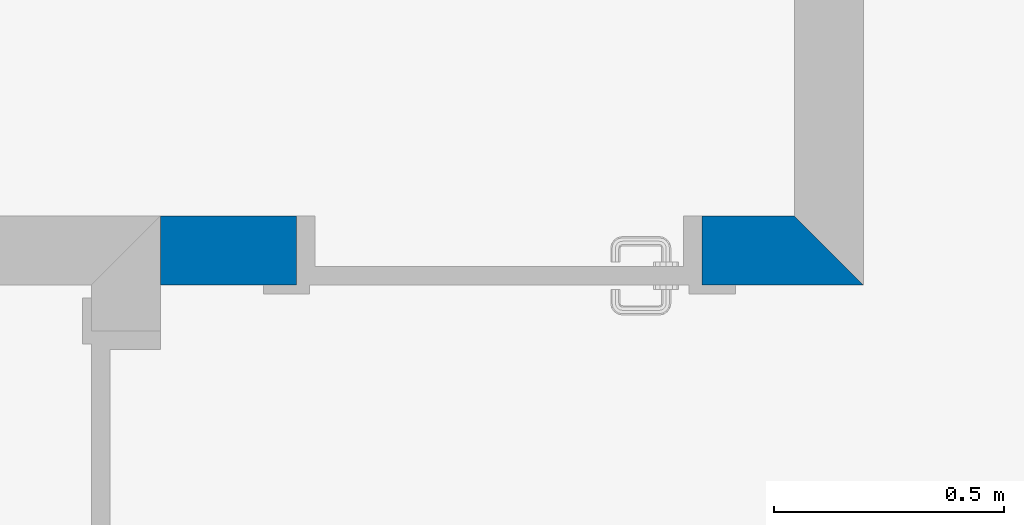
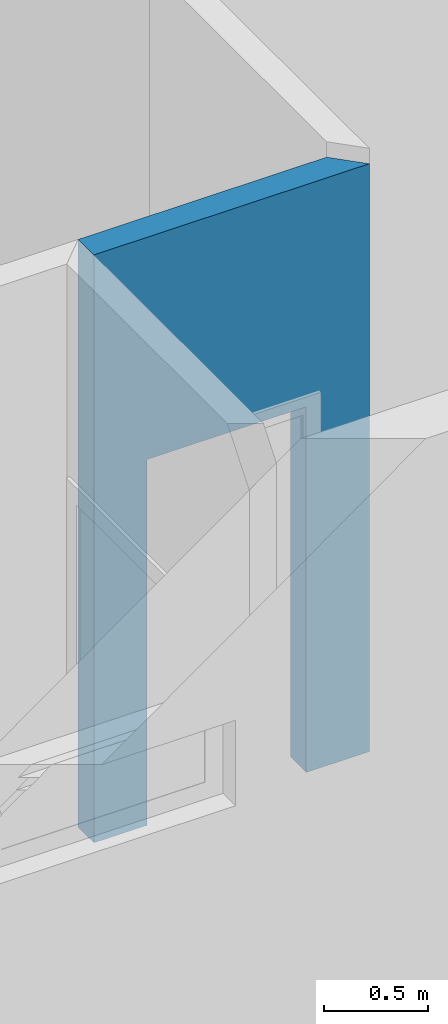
# One storey, part 4 of 26: 1 wall, 1 opening.
"""IFC2X3 building model written with IfcOpenShell, lengths in millimetres."""

import ifcopenshell
import ifcopenshell.guid

model = None  # the IFC model being written
_history = None  # IfcOwnerHistory: only IFC2X3 demands one
_inside = {}  # id of a spatial element -> (the spatial element, [elements in it])
_under = {}  # id of a project, library or spatial element -> (it, [spatial elements below it])
_declared = {}  # id of a project -> (the project, [libraries it declares])
_typed = {}  # id of a type object -> (the type object, [elements of that type])
_made_of = {}  # id of a material, layer set ... -> (it, [elements and type objects made of it])


def new_model(schema):
    """Start an empty IFC model of exactly this schema.

    Asked for "IFC4X3", IfcOpenShell would pick the latest addendum, in which some entities
    have other attributes; the version numbers below select the first issue.
    IFC2X3 requires an IfcOwnerHistory on every rooted entity: one is made here for all.
    """
    global model, _history
    if schema == "IFC4X3":
        model = ifcopenshell.file(schema_version=(4, 3, 0, 0))
    else:
        model = ifcopenshell.file(schema=schema)
    _inside.clear()
    _under.clear()
    _declared.clear()
    _typed.clear()
    _made_of.clear()
    _history = None
    if model.schema == "IFC2X3":
        org = make("IfcOrganization", Name="unknown")
        user = make(
            "IfcPersonAndOrganization",
            ThePerson=make("IfcPerson", FamilyName="unknown"),
            TheOrganization=org,
        )
        app = make(
            "IfcApplication",
            ApplicationDeveloper=org,
            Version="unknown",
            ApplicationFullName="unknown",
            ApplicationIdentifier="unknown",
        )
        _history = make(
            "IfcOwnerHistory",
            OwningUser=user,
            OwningApplication=app,
            ChangeAction="ADDED",
            CreationDate=0,
        )
    return model


def make(cls, **values):
    """One entity of the class cls with the attributes given. An attribute that is None is left unset."""
    return model.create_entity(
        cls, **{name: value for name, value in values.items() if value is not None}
    )


def entity(cls, *values):
    """Any entity or typed value of the class cls, its attributes in the order of the schema. None: left unset."""
    e = model.create_entity(cls)
    for i, value in enumerate(values):
        if value is not None:
            e[i] = value
    return e


def rooted(cls, **values):
    """An entity with a GlobalId (a new one), such as an element, a storey or a relation."""
    return make(cls, GlobalId=ifcopenshell.guid.new(), OwnerHistory=_history, **values)


def si_unit(unit_type, name, prefix=None):
    """IfcSIUnit, for example si_unit("LENGTHUNIT", "METRE", prefix="MILLI")."""
    return make("IfcSIUnit", UnitType=unit_type, Prefix=prefix, Name=name)


def converted_unit(unit_type, name, factor, base, dimensions=None, offset=None):
    """IfcConversionBasedUnit, such as the inch: factor (a typed value) times the base unit."""
    return make(
        "IfcConversionBasedUnit"
        if offset is None
        else "IfcConversionBasedUnitWithOffset",
        ConversionOffset=offset,
        Dimensions=None
        if dimensions is None
        else entity("IfcDimensionalExponents", *dimensions),
        UnitType=unit_type,
        Name=name,
        ConversionFactor=make(
            "IfcMeasureWithUnit", ValueComponent=factor, UnitComponent=base
        ),
    )


def money_unit(currency):
    """IfcMonetaryUnit."""
    return make("IfcMonetaryUnit", Currency=currency)


def assignment(units):
    """IfcUnitAssignment: the units of a project."""
    return None if units is None else make("IfcUnitAssignment", Units=units)


def point(xyz):
    """IfcCartesianPoint."""
    return None if xyz is None else make("IfcCartesianPoint", Coordinates=xyz)


def direction(xyz):
    """IfcDirection."""
    return None if xyz is None else make("IfcDirection", DirectionRatios=xyz)


def frame(location, z_axis=None, x_axis=None):
    """IfcAxis2Placement3D, a coordinate frame: its origin and axes. An axis left out is left unset."""
    return make(
        "IfcAxis2Placement3D",
        Location=point(location),
        Axis=direction(z_axis),
        RefDirection=direction(x_axis),
    )


def frame_2d(location, x_axis=None):
    """IfcAxis2Placement2D, a coordinate frame in the plane: its origin and x axis."""
    return make(
        "IfcAxis2Placement2D", Location=point(location), RefDirection=direction(x_axis)
    )


def origin_with_axes():
    """The frame at (0, 0, 0) with the z axis (0, 0, 1) and the x axis (1, 0, 0) written out."""
    return frame((0.0, 0.0, 0.0), z_axis=(0.0, 0.0, 1.0), x_axis=(1.0, 0.0, 0.0))


def origin_2d_with_axis():
    """The frame at (0, 0) in the plane with the x axis (1, 0) written out."""
    return frame_2d((0.0, 0.0), x_axis=(1.0, 0.0))


def place(relative_to, where):
    """IfcLocalPlacement: puts the frame where relative to a parent placement (None: the world)."""
    return make(
        "IfcLocalPlacement", PlacementRelTo=relative_to, RelativePlacement=where
    )


def context(
    kind, dimensions, precision=None, world=None, true_north=None, identifier=None
):
    """IfcGeometricRepresentationContext, for example the 3D "Model" context."""
    return make(
        "IfcGeometricRepresentationContext",
        ContextIdentifier=identifier,
        ContextType=kind,
        CoordinateSpaceDimension=dimensions,
        Precision=precision,
        WorldCoordinateSystem=world,
        TrueNorth=true_north,
    )


def subcontext(parent, identifier, kind, view, scale=None):
    """IfcGeometricRepresentationSubContext, for example "Body" below "Model"."""
    return make(
        "IfcGeometricRepresentationSubContext",
        ContextIdentifier=identifier,
        ContextType=kind,
        ParentContext=parent,
        TargetScale=scale,
        TargetView=view,
    )


def project(units=None, contexts=None):
    """IfcProject with its units and contexts."""
    return rooted(
        "IfcProject",
        Name="project",
        RepresentationContexts=contexts,
        UnitsInContext=assignment(units),
    )


def spatial(cls, under=None, at=None, **own):
    """A site, building, storey or space (cls), placed at a placement, below another one or the project."""
    s = rooted(cls, ObjectPlacement=at, **own)
    if under is not None:
        _under.setdefault(under.id(), (under, []))[1].append(s)
    return s


def polyline(points):
    """IfcPolyline through the points."""
    return make("IfcPolyline", Points=[point(p) for p in points])


def profile(cls, at=None, kind="AREA", **sizes):
    """A parametric profile (cls). Its sizes go by their IFC names, for example OverallWidth=200.0."""
    return make(cls, ProfileType=kind, Position=at, **sizes)


def rectangle(**sizes):
    """IfcRectangleProfileDef."""
    return profile("IfcRectangleProfileDef", **sizes)


def outline(outer, holes=None, kind="AREA"):
    """IfcArbitraryClosedProfileDef: a profile drawn as a closed curve; with holes, ...WithVoids."""
    if holes is None:
        return make("IfcArbitraryClosedProfileDef", ProfileType=kind, OuterCurve=outer)
    return make(
        "IfcArbitraryProfileDefWithVoids",
        ProfileType=kind,
        OuterCurve=outer,
        InnerCurves=holes,
    )


def extrude(swept, where, along, depth):
    """IfcExtrudedAreaSolid: the profile swept, set in the frame where, extruded along a direction by depth."""
    return make(
        "IfcExtrudedAreaSolid",
        SweptArea=swept,
        Position=where,
        ExtrudedDirection=direction(along),
        Depth=depth,
    )


def shape(context_of_items, identifier, shape_type, items):
    """IfcShapeRepresentation: the items that make up one representation, for example the "Body"."""
    return make(
        "IfcShapeRepresentation",
        ContextOfItems=context_of_items,
        RepresentationIdentifier=identifier,
        RepresentationType=shape_type,
        Items=items,
    )


def material(Name=None, Category=None):
    """IfcMaterial."""
    return make("IfcMaterial", Name=Name, Category=Category)


def layer(
    of_material, thickness, ventilated=None, Name=None, Category=None, Priority=None
):
    """IfcMaterialLayer: one layer of a wall or slab, of a material (None: an air gap)."""
    return make(
        "IfcMaterialLayer",
        Material=of_material,
        LayerThickness=thickness,
        IsVentilated=ventilated,
        Name=Name,
        Category=Category,
        Priority=Priority,
    )


def layer_set(layers, Name=None):
    """IfcMaterialLayerSet."""
    return make("IfcMaterialLayerSet", MaterialLayers=layers, LayerSetName=Name)


def layer_usage(for_layer_set, set_direction, sense, offset, extent=None):
    """IfcMaterialLayerSetUsage: how a layer set lies in its element."""
    return make(
        "IfcMaterialLayerSetUsage",
        ForLayerSet=for_layer_set,
        LayerSetDirection=set_direction,
        DirectionSense=sense,
        OffsetFromReferenceLine=offset,
        ReferenceExtent=extent,
    )


def made_of(thing, what):
    """Note that an element or type object is made of a material, layer set ...; save() writes the relation."""
    if what is not None:
        _made_of.setdefault(what.id(), (what, []))[1].append(thing)
    return thing


def type_object(cls, material=None, **own):
    """A type object (cls), such as IfcWallType, which elements share."""
    return made_of(rooted(cls, **own), material)


def element(
    cls,
    number,
    at=None,
    inside=None,
    cuts=None,
    type_object=None,
    material=None,
    context=None,
    identifier="Body",
    shape_type=None,
    held_by="IfcProductDefinitionShape",
    body=None,
    shapes=None,
    **own,
):
    """One element of the class cls, such as IfcWall. Its Tag is "e" and its number.

    at: its placement. inside: the storey or other place that contains it. cuts: it is an
    opening in that element (IfcRelVoidsElement). A single representation is given by context,
    identifier, shape_type and body (its items); several are given by shapes. held_by: the class
    of the entity that holds the representations. save() writes the other relations.
    """
    e = rooted(cls, Tag="e%d" % number, ObjectPlacement=at, **own)
    if body is not None:
        shapes = [shape(context, identifier, shape_type, body)]
    if shapes is not None:
        e.Representation = make(held_by, Representations=shapes)
    if inside is not None:
        _inside.setdefault(inside.id(), (inside, []))[1].append(e)
    if cuts is not None:
        rooted(
            "IfcRelVoidsElement", RelatingBuildingElement=cuts, RelatedOpeningElement=e
        )
    if type_object is not None:
        _typed.setdefault(type_object.id(), (type_object, []))[1].append(e)
    return made_of(e, material)


def aggregate(whole, parts):
    """IfcRelAggregates: a whole, such as a stair, and the parts it consists of."""
    return rooted("IfcRelAggregates", RelatingObject=whole, RelatedObjects=parts)


def save(model, path):
    """Write the relations noted so far, then the file.

    IfcRelAggregates (storeys below a building ...), IfcRelContainedInSpatialStructure (elements
    in a storey), IfcRelDefinesByType, IfcRelAssociatesMaterial and IfcRelDeclares: one each for
    every whole, place, type object, material and project.
    """
    for whole, parts in _under.values():
        aggregate(whole, parts)
    for where, things in _inside.values():
        rooted(
            "IfcRelContainedInSpatialStructure",
            RelatedElements=things,
            RelatingStructure=where,
        )
    for kind, things in _typed.values():
        rooted("IfcRelDefinesByType", RelatedObjects=things, RelatingType=kind)
    for what, things in _made_of.values():
        rooted("IfcRelAssociatesMaterial", RelatedObjects=things, RelatingMaterial=what)
    for by, libraries in _declared.values():
        rooted("IfcRelDeclares", RelatingContext=by, RelatedDefinitions=libraries)
    model.write(path)


model = new_model("IFC2X3")

# Units and contexts
model_context = context("Model", 3, precision=1e-05, world=origin_with_axes(), true_north=direction((0.0, 1.0)))
body_context = subcontext(model_context, "Body", "Model", "MODEL_VIEW")
ifc_project = project(units=[si_unit("LENGTHUNIT", "METRE", prefix="MILLI"), si_unit("AREAUNIT", "SQUARE_METRE"), si_unit("VOLUMEUNIT", "CUBIC_METRE"), converted_unit("PLANEANGLEUNIT", "DEGREE", entity("IfcPlaneAngleMeasure", 0.0174532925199), si_unit("PLANEANGLEUNIT", "RADIAN"), dimensions=[0, 0, 0, 0, 0, 0, 0]), si_unit("SOLIDANGLEUNIT", "STERADIAN"), money_unit("USD"), converted_unit("TIMEUNIT", "Year", entity("IfcTimeMeasure", 31556926.0), si_unit("TIMEUNIT", "SECOND"), dimensions=[0, 0, 0, 0, 0, 0, 0]), si_unit("MASSUNIT", "GRAM"), si_unit("THERMODYNAMICTEMPERATUREUNIT", "DEGREE_CELSIUS"), si_unit("LUMINOUSINTENSITYUNIT", "LUMEN")], contexts=[model_context])

# Site, building, storey
site_placement = place(None, origin_with_axes())
site = spatial("IfcSite", under=ifc_project, at=site_placement, Name="Grove Residential", CompositionType="ELEMENT")
building_placement = place(site_placement, origin_with_axes())
building = spatial("IfcBuilding", under=site, at=building_placement, Name="Building", CompositionType="ELEMENT")
storey_placement = place(building_placement, origin_with_axes())
storey = spatial("IfcBuildingStorey", under=building, at=storey_placement, Name="Ground Floor", CompositionType="ELEMENT", Elevation=0.0)

# Wall, opening
ifc_material_1 = material(Name="Gypsum Plasterboard")
ifc_layer_1 = layer(ifc_material_1, 12.5, ventilated="UNKNOWN")
ifc_layer_2 = layer(ifc_material_1, 12.5, ventilated="UNKNOWN")
ifc_material_2 = material(Name="Air Space - Frame")
ifc_layer_3 = layer(ifc_material_2, 50.0, ventilated="UNKNOWN")
ifc_material_3 = material(Name="Insulation - Mineral Soft")
ifc_layer_4 = layer(ifc_material_3, 50.0, ventilated="UNKNOWN")
ifc_layer_5 = layer(ifc_material_1, 12.5, ventilated="UNKNOWN")
ifc_layer_6 = layer(ifc_material_1, 12.5, ventilated="UNKNOWN")
ifc_layer_set = layer_set([ifc_layer_1, ifc_layer_2, ifc_layer_3, ifc_layer_4, ifc_layer_5, ifc_layer_6], Name="IWF-001")
ifc_layer_usage = layer_usage(ifc_layer_set, "AXIS2", "NEGATIVE", 150.0)
wall_type = type_object("IfcWallType", Name="IWF-001 150", PredefinedType="NOTDEFINED")
wall_placement = place(storey_placement, frame((7075.0, 2050.0, 0.0), z_axis=(0.0, 0.0, 1.0), x_axis=(-1.0, 0.0, 0.0)))
wall = element("IfcWallStandardCase", 1, at=wall_placement, inside=storey, type_object=wall_type, material=ifc_layer_usage, Name="SW - 001", context=body_context, shape_type="SweptSolid", body=[
    extrude(outline(polyline([(0.0, 0.0), (1375.0, 0.0), (1375.0, 150.0), (-150.0, 150.0), (0.0, 0.0)])), origin_with_axes(), (0.0, 0.0, 1.0), 3440.0),
])
opening_placement = place(wall_placement, frame((640.0, 0.0, 0.0), z_axis=(0.0, 0.0, 1.0), x_axis=(1.0, 0.0, 0.0)))
element("IfcOpeningElement", 2, at=opening_placement, cuts=wall, Name="D.01", context=body_context, shape_type="SweptSolid", body=[
    extrude(rectangle(XDim=880.0, YDim=2140.0, at=origin_2d_with_axis()), frame((0.0, 150.0, 1070.0), z_axis=(0.0, -1.0, 0.0), x_axis=(1.0, 0.0, 0.0)), (0.0, 0.0, 1.0), 450.0),
    extrude(rectangle(XDim=1024.0, YDim=2212.0, at=origin_2d_with_axis()), frame((0.0, 150.0, 1106.0), z_axis=(0.0, -1.0, 0.0), x_axis=(1.0, 0.0, 0.0)), (0.0, 0.0, -1.0), 150.0),
])

save(model, "model.ifc")
